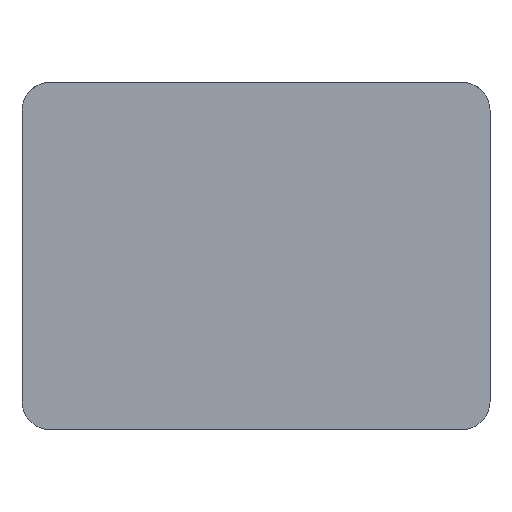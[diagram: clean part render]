
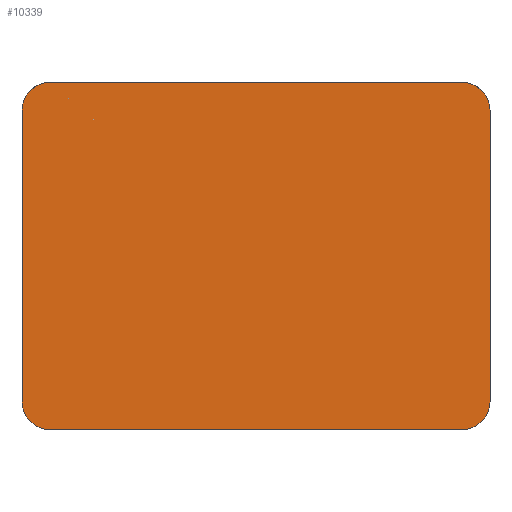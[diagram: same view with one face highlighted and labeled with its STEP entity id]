
A CAD part, left-side view. The second image highlights one B-rep face of the part: STEP entity #10339.
In plain terms, the highlighted planar face has unit normal (-1, 0, 0).
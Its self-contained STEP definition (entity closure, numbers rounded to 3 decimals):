
#1270=PLANE('',#10674);
#1808=FACE_OUTER_BOUND('',#2414,.T.);
#2414=EDGE_LOOP('',(#9555,#9556,#9557,#9558,#9559,#9560,#9561,#9562));
#3219=LINE('',#20519,#4020);
#3235=LINE('',#20645,#4036);
#3238=LINE('',#20650,#4039);
#3239=LINE('',#20654,#4040);
#4020=VECTOR('',#11932,10.);
#4036=VECTOR('',#12034,10.);
#4039=VECTOR('',#12039,10.);
#4040=VECTOR('',#12042,10.);
#4101=CIRCLE('',#10648,5.);
#4112=CIRCLE('',#10664,5.);
#4118=CIRCLE('',#10675,5.);
#4119=CIRCLE('',#10676,5.);
#5102=VERTEX_POINT('',#20513);
#5104=VERTEX_POINT('',#20517);
#5109=VERTEX_POINT('',#20552);
#5110=VERTEX_POINT('',#20554);
#5124=VERTEX_POINT('',#20612);
#5131=VERTEX_POINT('',#20644);
#5133=VERTEX_POINT('',#20651);
#5134=VERTEX_POINT('',#20653);
#6583=EDGE_CURVE('',#5104,#5102,#3219,.T.);
#6590=EDGE_CURVE('',#5109,#5110,#4101,.T.);
#6611=EDGE_CURVE('',#5102,#5124,#4112,.T.);
#6623=EDGE_CURVE('',#5110,#5131,#3235,.T.);
#6626=EDGE_CURVE('',#5124,#5109,#3238,.T.);
#6627=EDGE_CURVE('',#5133,#5104,#4118,.T.);
#6628=EDGE_CURVE('',#5134,#5133,#3239,.T.);
#6629=EDGE_CURVE('',#5131,#5134,#4119,.T.);
#9555=ORIENTED_EDGE('',*,*,#6590,.F.);
#9556=ORIENTED_EDGE('',*,*,#6626,.F.);
#9557=ORIENTED_EDGE('',*,*,#6611,.F.);
#9558=ORIENTED_EDGE('',*,*,#6583,.F.);
#9559=ORIENTED_EDGE('',*,*,#6627,.F.);
#9560=ORIENTED_EDGE('',*,*,#6628,.F.);
#9561=ORIENTED_EDGE('',*,*,#6629,.F.);
#9562=ORIENTED_EDGE('',*,*,#6623,.F.);
#10339=ADVANCED_FACE('',(#1808),#1270,.F.);
#10648=AXIS2_PLACEMENT_3D('',#20555,#11969,#11970);
#10664=AXIS2_PLACEMENT_3D('',#20613,#12009,#12010);
#10674=AXIS2_PLACEMENT_3D('',#20649,#12037,#12038);
#10675=AXIS2_PLACEMENT_3D('',#20652,#12040,#12041);
#10676=AXIS2_PLACEMENT_3D('',#20655,#12043,#12044);
#11932=DIRECTION('',(0.,0.,-1.));
#11969=DIRECTION('center_axis',(1.,0.,0.));
#11970=DIRECTION('ref_axis',(0.,0.707,-0.707));
#12009=DIRECTION('center_axis',(1.,0.,0.));
#12010=DIRECTION('ref_axis',(0.,-0.707,-0.707));
#12034=DIRECTION('',(0.,0.,1.));
#12037=DIRECTION('center_axis',(1.,0.,0.));
#12038=DIRECTION('ref_axis',(0.,1.,0.));
#12039=DIRECTION('',(0.,1.,0.));
#12040=DIRECTION('center_axis',(1.,0.,0.));
#12041=DIRECTION('ref_axis',(0.,-0.707,0.707));
#12042=DIRECTION('',(0.,-1.,0.));
#12043=DIRECTION('center_axis',(1.,0.,0.));
#12044=DIRECTION('ref_axis',(0.,0.707,0.707));
#20513=CARTESIAN_POINT('',(0.,0.,5.));
#20517=CARTESIAN_POINT('',(0.,0.,58.));
#20519=CARTESIAN_POINT('',(0.,0.,63.));
#20552=CARTESIAN_POINT('',(0.,80.,0.));
#20554=CARTESIAN_POINT('',(0.,85.,5.));
#20555=CARTESIAN_POINT('Origin',(0.,80.,5.));
#20612=CARTESIAN_POINT('',(0.,5.,0.));
#20613=CARTESIAN_POINT('Origin',(0.,5.,5.));
#20644=CARTESIAN_POINT('',(0.,85.,58.));
#20645=CARTESIAN_POINT('',(0.,85.,0.));
#20649=CARTESIAN_POINT('Origin',(0.,42.5,31.5));
#20650=CARTESIAN_POINT('',(0.,0.,0.));
#20651=CARTESIAN_POINT('',(0.,5.,63.));
#20652=CARTESIAN_POINT('Origin',(0.,5.,58.));
#20653=CARTESIAN_POINT('',(0.,80.,63.));
#20654=CARTESIAN_POINT('',(0.,85.,63.));
#20655=CARTESIAN_POINT('Origin',(0.,80.,58.));
